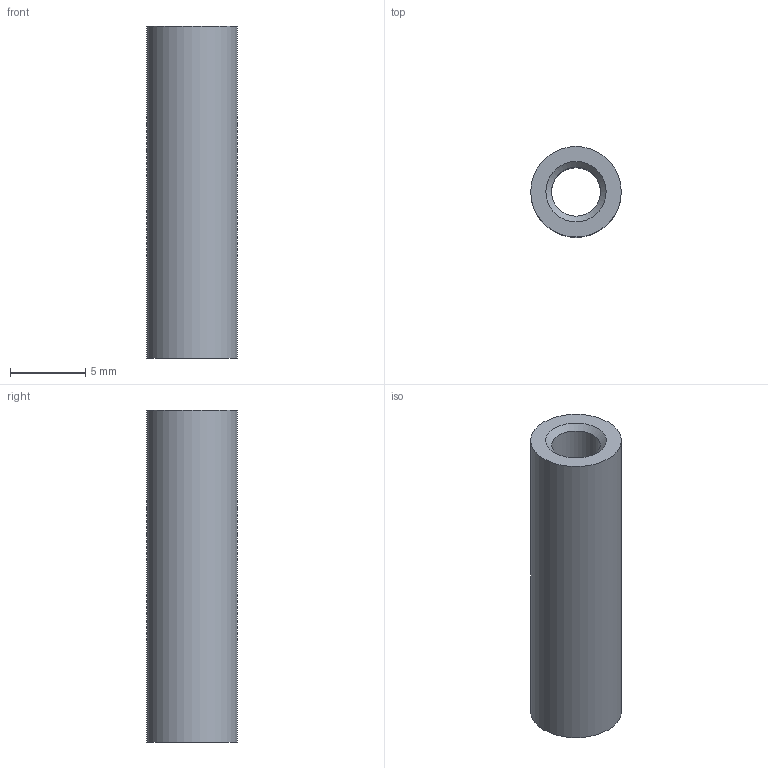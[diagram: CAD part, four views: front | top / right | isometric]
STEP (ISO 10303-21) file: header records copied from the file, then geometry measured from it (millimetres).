
FILE_DESCRIPTION(/* description */ (''),/* implementation_level */ '2;1');
FILE_NAME(/* name */ 'C:\ADSK_DMS_WS\Designs\Vorschläge\Loc Schalen\Schraubenlängebestimmung\Schrauben\Gewindehülse 22.stp',/* time_stamp */ '2021-10-05T14:05:14+02:00',/* author */ ('gm'),/* organization */ (''),/* preprocessor_version */ 'ST-DEVELOPER v16.5',/* originating_system */ 'Autodesk Inventor 2017',/* authorisation */ '');
FILE_SCHEMA (('AUTOMOTIVE_DESIGN { 1 0 10303 214 3 1 1 }'));
Length unit declared in the file: millimetre
Products named in the file (1): Gewindehülse 22
Bounding box: 6 x 6 x 22 mm (x, y, z)
Volume: 438.8 mm3; surface area: 674.5 mm2
Topology: 1 solids, 1 shells, 6 faces, 11 edges, 7 vertices
Faces by surface type: cone 2, cylinder 2, plane 2
Full cylindrical faces by diameter (mm): 3.242 x1, 6 x1
Entity records: 158 total; most frequent: DIRECTION 26, CARTESIAN_POINT 19, AXIS2_PLACEMENT_3D 13, EDGE_LOOP 12, ORIENTED_EDGE 12, FACE_BOUND 6, FACE_OUTER_BOUND 6, CIRCLE 6
